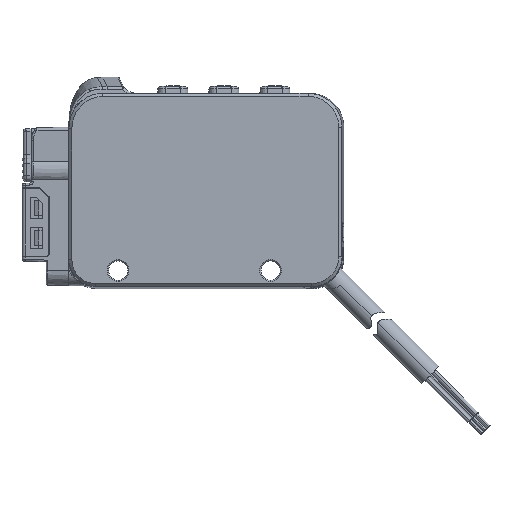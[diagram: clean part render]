
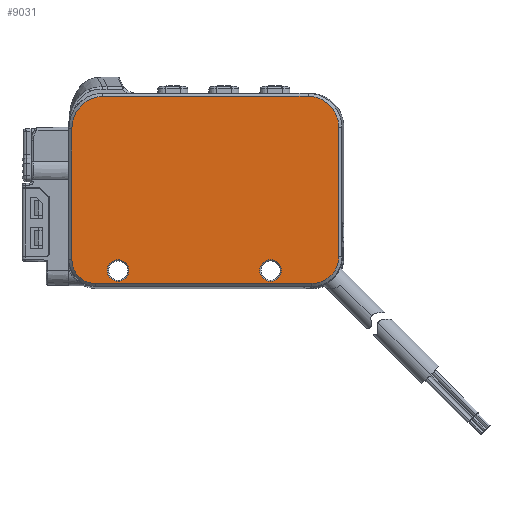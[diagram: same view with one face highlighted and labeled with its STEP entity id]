
A CAD part, front view. The second image highlights one B-rep face of the part: STEP entity #9031.
In plain terms, the highlighted planar face has unit normal (0, -1, 0).
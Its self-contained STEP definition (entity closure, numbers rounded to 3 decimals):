
#543=CARTESIAN_POINT('',(-129.6,-8.631,101.07));
#544=CARTESIAN_POINT('',(-129.6,-8.631,100.772));
#545=CARTESIAN_POINT('',(-129.658,-8.631,100.188));
#546=CARTESIAN_POINT('',(-129.916,-8.631,99.338));
#547=CARTESIAN_POINT('',(-130.333,-8.631,98.558));
#548=CARTESIAN_POINT('',(-130.895,-8.631,97.874));
#549=CARTESIAN_POINT('',(-131.579,-8.631,97.313));
#550=CARTESIAN_POINT('',(-132.358,-8.631,96.895));
#551=CARTESIAN_POINT('',(-133.208,-8.631,96.638));
#552=CARTESIAN_POINT('',(-133.792,-8.631,96.58));
#553=CARTESIAN_POINT('',(-134.09,-8.631,96.58));
#555=DIRECTION('',(-1.,0.,0.));
#556=VECTOR('',#555,35.969);
#557=CARTESIAN_POINT('',(-134.09,-8.631,96.58));
#558=LINE('',#557,#556);
#559=CARTESIAN_POINT('',(-170.06,-8.631,96.58));
#560=CARTESIAN_POINT('',(-170.325,-8.631,96.58));
#561=CARTESIAN_POINT('',(-170.843,-8.631,96.631));
#562=CARTESIAN_POINT('',(-171.599,-8.631,96.86));
#563=CARTESIAN_POINT('',(-172.292,-8.631,97.232));
#564=CARTESIAN_POINT('',(-172.9,-8.631,97.731));
#565=CARTESIAN_POINT('',(-173.399,-8.631,98.339));
#566=CARTESIAN_POINT('',(-173.77,-8.631,99.032));
#567=CARTESIAN_POINT('',(-173.999,-8.631,99.787));
#568=CARTESIAN_POINT('',(-174.051,-8.631,100.306));
#569=CARTESIAN_POINT('',(-174.051,-8.631,100.571));
#571=DIRECTION('',(0.,0.,1.));
#572=VECTOR('',#571,21.758);
#573=CARTESIAN_POINT('',(-174.051,-8.631,100.571));
#574=LINE('',#573,#572);
#575=CARTESIAN_POINT('',(-174.051,-8.631,122.33));
#576=CARTESIAN_POINT('',(-174.051,-8.631,122.696));
#577=CARTESIAN_POINT('',(-173.982,-8.631,123.41));
#578=CARTESIAN_POINT('',(-173.679,-8.631,124.441));
#579=CARTESIAN_POINT('',(-173.197,-8.631,125.38));
#580=CARTESIAN_POINT('',(-172.524,-8.631,126.226));
#581=CARTESIAN_POINT('',(-171.748,-8.631,126.878));
#582=CARTESIAN_POINT('',(-170.849,-8.631,127.374));
#583=CARTESIAN_POINT('',(-169.886,-8.631,127.668));
#584=CARTESIAN_POINT('',(-169.249,-8.631,127.73));
#585=CARTESIAN_POINT('',(-168.928,-8.631,127.73));
#587=DIRECTION('',(1.,0.,0.));
#588=VECTOR('',#587,34.196);
#589=CARTESIAN_POINT('',(-168.928,-8.631,127.73));
#590=LINE('',#589,#588);
#591=CARTESIAN_POINT('',(-134.732,-8.631,127.73));
#592=CARTESIAN_POINT('',(-134.391,-8.631,127.73));
#593=CARTESIAN_POINT('',(-133.724,-8.631,127.664));
#594=CARTESIAN_POINT('',(-132.753,-8.631,127.369));
#595=CARTESIAN_POINT('',(-131.861,-8.631,126.892));
#596=CARTESIAN_POINT('',(-131.08,-8.631,126.251));
#597=CARTESIAN_POINT('',(-130.438,-8.631,125.469));
#598=CARTESIAN_POINT('',(-129.961,-8.631,124.578));
#599=CARTESIAN_POINT('',(-129.666,-8.631,123.607));
#600=CARTESIAN_POINT('',(-129.6,-8.631,122.94));
#601=CARTESIAN_POINT('',(-129.6,-8.631,122.599));
#603=DIRECTION('',(0.,0.,-1.));
#604=VECTOR('',#603,21.529);
#605=CARTESIAN_POINT('',(-129.6,-8.631,122.599));
#606=LINE('',#605,#604);
#607=CARTESIAN_POINT('',(-166.36,-8.631,98.739));
#608=DIRECTION('',(0.,-1.,0.));
#609=DIRECTION('',(1.,0.,0.));
#610=AXIS2_PLACEMENT_3D('',#607,#608,#609);
#612=CARTESIAN_POINT('',(-166.36,-8.631,98.739));
#613=DIRECTION('',(0.,-1.,0.));
#614=DIRECTION('',(0.,0.,1.));
#615=AXIS2_PLACEMENT_3D('',#612,#613,#614);
#617=CARTESIAN_POINT('',(-166.36,-8.631,98.739));
#618=DIRECTION('',(0.,-1.,0.));
#619=DIRECTION('',(-1.,0.,0.));
#620=AXIS2_PLACEMENT_3D('',#617,#618,#619);
#622=CARTESIAN_POINT('',(-166.36,-8.631,98.739));
#623=DIRECTION('',(0.,-1.,0.));
#624=DIRECTION('',(0.,0.,-1.));
#625=AXIS2_PLACEMENT_3D('',#622,#623,#624);
#627=CARTESIAN_POINT('',(-140.96,-8.631,98.739));
#628=DIRECTION('',(0.,-1.,0.));
#629=DIRECTION('',(-1.,0.,0.));
#630=AXIS2_PLACEMENT_3D('',#627,#628,#629);
#632=CARTESIAN_POINT('',(-140.96,-8.631,98.739));
#633=DIRECTION('',(0.,-1.,0.));
#634=DIRECTION('',(0.,0.,-1.));
#635=AXIS2_PLACEMENT_3D('',#632,#633,#634);
#637=CARTESIAN_POINT('',(-140.96,-8.631,98.739));
#638=DIRECTION('',(0.,-1.,0.));
#639=DIRECTION('',(1.,0.,0.));
#640=AXIS2_PLACEMENT_3D('',#637,#638,#639);
#642=CARTESIAN_POINT('',(-140.96,-8.631,98.739));
#643=DIRECTION('',(0.,-1.,0.));
#644=DIRECTION('',(0.,0.,1.));
#645=AXIS2_PLACEMENT_3D('',#642,#643,#644);
#7152=VERTEX_POINT('',#591);
#7153=VERTEX_POINT('',#601);
#7154=VERTEX_POINT('',#543);
#7155=VERTEX_POINT('',#553);
#7156=CARTESIAN_POINT('',(-170.06,-8.631,
96.58));
#7157=VERTEX_POINT('',#7156);
#7158=VERTEX_POINT('',#569);
#7159=CARTESIAN_POINT('',(-174.051,-8.631,
122.33));
#7160=VERTEX_POINT('',#7159);
#7161=VERTEX_POINT('',#585);
#7162=CARTESIAN_POINT('',(-166.36,-8.631,
100.539));
#7163=CARTESIAN_POINT('',(-168.16,-8.631,
98.739));
#7164=VERTEX_POINT('',#7162);
#7165=VERTEX_POINT('',#7163);
#7166=CARTESIAN_POINT('',(-164.56,-8.631,
98.739));
#7167=VERTEX_POINT('',#7166);
#7168=CARTESIAN_POINT('',(-166.36,-8.631,
96.939));
#7169=VERTEX_POINT('',#7168);
#7170=CARTESIAN_POINT('',(-140.96,-8.631,
96.939));
#7171=CARTESIAN_POINT('',(-139.16,-8.631,
98.739));
#7172=VERTEX_POINT('',#7170);
#7173=VERTEX_POINT('',#7171);
#7174=CARTESIAN_POINT('',(-142.76,-8.631,
98.739));
#7175=VERTEX_POINT('',#7174);
#7176=CARTESIAN_POINT('',(-140.96,-8.631,
100.539));
#7177=VERTEX_POINT('',#7176);
#8989=CARTESIAN_POINT('',(-179.91,-8.631,
91.677));
#8990=DIRECTION('',(0.,1.,0.));
#8991=DIRECTION('',(1.,0.,0.));
#8992=AXIS2_PLACEMENT_3D('',#8989,#8990,#8991);
#8993=PLANE('',#8992);
#8995=ORIENTED_EDGE('',*,*,#8994,.T.);
#8997=ORIENTED_EDGE('',*,*,#8996,.T.);
#8998=ORIENTED_EDGE('',*,*,#8979,.T.);
#9000=ORIENTED_EDGE('',*,*,#8999,.T.);
#9002=ORIENTED_EDGE('',*,*,#9001,.T.);
#9004=ORIENTED_EDGE('',*,*,#9003,.T.);
#9006=ORIENTED_EDGE('',*,*,#9005,.T.);
#9008=ORIENTED_EDGE('',*,*,#9007,.T.);
#9009=EDGE_LOOP('',(#8995,#8997,#8998,#9000,#9002,#9004,#9006,#9008));
#9010=FACE_OUTER_BOUND('',#9009,.F.);
#9012=ORIENTED_EDGE('',*,*,#9011,.T.);
#9014=ORIENTED_EDGE('',*,*,#9013,.T.);
#9016=ORIENTED_EDGE('',*,*,#9015,.T.);
#9018=ORIENTED_EDGE('',*,*,#9017,.T.);
#9019=EDGE_LOOP('',(#9012,#9014,#9016,#9018));
#9020=FACE_BOUND('',#9019,.F.);
#9022=ORIENTED_EDGE('',*,*,#9021,.T.);
#9024=ORIENTED_EDGE('',*,*,#9023,.T.);
#9026=ORIENTED_EDGE('',*,*,#9025,.T.);
#9028=ORIENTED_EDGE('',*,*,#9027,.T.);
#9029=EDGE_LOOP('',(#9022,#9024,#9026,#9028));
#9030=FACE_BOUND('',#9029,.F.);
#9031=ADVANCED_FACE('',(#9010,#9020,#9030),#8993,.F.);
#554=B_SPLINE_CURVE_WITH_KNOTS('',3,(#543,#544,#545,#546,#547,#548,#549,#550,
#551,#552,#553),.UNSPECIFIED.,.F.,.F.,(4,1,1,1,1,1,1,1,4),(0.,0.125,0.25,
0.375,0.5,0.625,0.75,0.875,1.),.UNSPECIFIED.);
#570=B_SPLINE_CURVE_WITH_KNOTS('',3,(#559,#560,#561,#562,#563,#564,#565,#566,
#567,#568,#569),.UNSPECIFIED.,.F.,.F.,(4,1,1,1,1,1,1,1,4),(0.,0.125,0.25,
0.375,0.5,0.625,0.75,0.875,1.),.UNSPECIFIED.);
#586=B_SPLINE_CURVE_WITH_KNOTS('',3,(#575,#576,#577,#578,#579,#580,#581,#582,
#583,#584,#585),.UNSPECIFIED.,.F.,.F.,(4,1,1,1,1,1,1,1,4),(0.,0.125,0.25,
0.375,0.5,0.625,0.75,0.875,1.),.UNSPECIFIED.);
#602=B_SPLINE_CURVE_WITH_KNOTS('',3,(#591,#592,#593,#594,#595,#596,#597,#598,
#599,#600,#601),.UNSPECIFIED.,.F.,.F.,(4,1,1,1,1,1,1,1,4),(0.,0.125,0.25,
0.375,0.5,0.625,0.75,0.875,1.),.UNSPECIFIED.);
#611=CIRCLE('',#610,1.8);
#616=CIRCLE('',#615,1.8);
#621=CIRCLE('',#620,1.8);
#626=CIRCLE('',#625,1.8);
#631=CIRCLE('',#630,1.8);
#636=CIRCLE('',#635,1.8);
#641=CIRCLE('',#640,1.8);
#646=CIRCLE('',#645,1.8);
#8979=EDGE_CURVE('',#7157,#7158,#570,.T.);
#8994=EDGE_CURVE('',#7154,#7155,#554,.T.);
#8996=EDGE_CURVE('',#7155,#7157,#558,.T.);
#8999=EDGE_CURVE('',#7158,#7160,#574,.T.);
#9001=EDGE_CURVE('',#7160,#7161,#586,.T.);
#9003=EDGE_CURVE('',#7161,#7152,#590,.T.);
#9005=EDGE_CURVE('',#7152,#7153,#602,.T.);
#9007=EDGE_CURVE('',#7153,#7154,#606,.T.);
#9011=EDGE_CURVE('',#7167,#7164,#611,.T.);
#9013=EDGE_CURVE('',#7164,#7165,#616,.T.);
#9015=EDGE_CURVE('',#7165,#7169,#621,.T.);
#9017=EDGE_CURVE('',#7169,#7167,#626,.T.);
#9021=EDGE_CURVE('',#7175,#7172,#631,.T.);
#9023=EDGE_CURVE('',#7172,#7173,#636,.T.);
#9025=EDGE_CURVE('',#7173,#7177,#641,.T.);
#9027=EDGE_CURVE('',#7177,#7175,#646,.T.);
